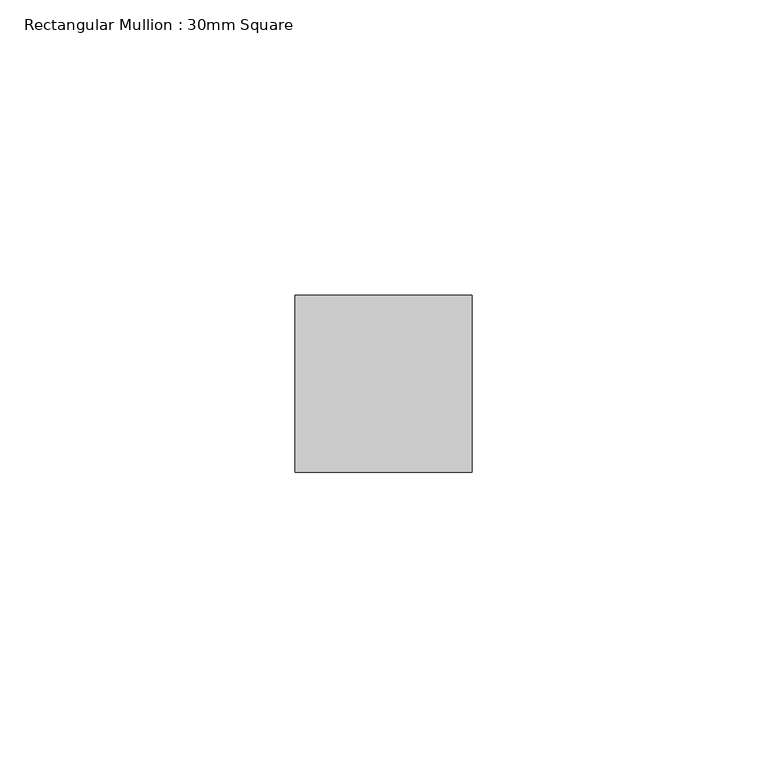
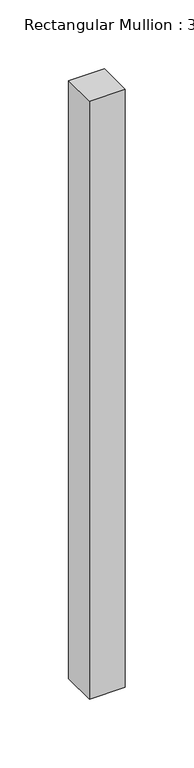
"""IFC4 building model written with IfcOpenShell, lengths in millimetres: member geometry, Rectangular Mullion : 30mm Square."""

from ifc_helpers import new_model, si_unit, frame, origin, place, context, project, spatial, polyline, outline, extrude, source, transform, mapped, element, save


def rectangular_mullion_30mm_square_f75d90f3(model_context):
    return source(origin(), model_context, "Body", "SweptSolid", [
        extrude(outline(polyline([(0.0, 15.0), (0.0, -15.0), (-30.0, -15.0), (-30.0, 15.0), (0.0, 15.0)])), frame((0.0, 0.0, -530.0), z_axis=(0.0, 0.0, 1.0), x_axis=(1.0, 0.0, 0.0)), (0.0, 0.0, 1.0), 530.0),
    ])


if __name__ == "__main__":
    model = new_model("IFC4")
    model_context = context("Model", 3, world=origin())
    ifc_project = project(units=[si_unit("LENGTHUNIT", "METRE", prefix="MILLI")], contexts=[model_context])
    site = spatial("IfcSite", under=ifc_project)
    building = spatial("IfcBuilding", under=site)
    placement = place(None, origin())
    rectangular_mullion_30mm_square_shape = rectangular_mullion_30mm_square_f75d90f3(model_context)
    element("IfcMember", 1, ObjectType="Rectangular Mullion : 30mm Square", at=placement, inside=building, context=model_context, shape_type="MappedRepresentation", body=[
        mapped(rectangular_mullion_30mm_square_shape, transform((0.0, 0.0, 0.0), x_axis=(1.0, 0.0, 0.0), y_axis=(0.0, 1.0, 0.0), z_axis=(0.0, 0.0, 1.0))),
    ])
    save(model, "model.ifc")
